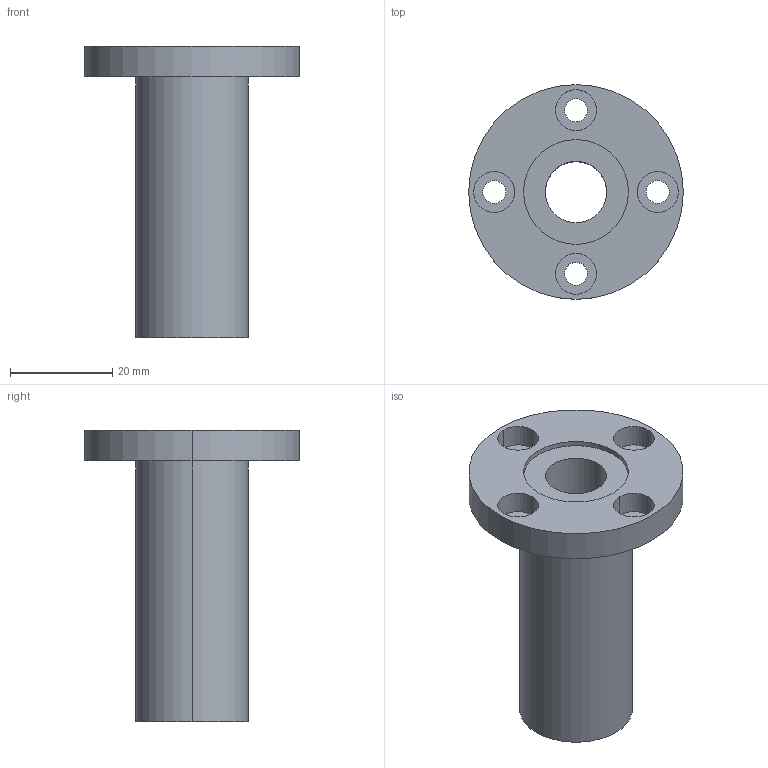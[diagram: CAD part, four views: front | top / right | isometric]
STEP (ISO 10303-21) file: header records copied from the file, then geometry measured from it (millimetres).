
FILE_DESCRIPTION((''),'2;1');
FILE_NAME('C:\Documents and Settings\ｿﾀﾀ蠑ｷ1\ｹﾙﾅﾁ ﾈｭｸ饅\ｺﾎﾇｰﾆﾄﾀﾏ\ﾁｦﾇｰ\LMEF__LUU\LMEF12LUU.stp','2005-06-15T10:53:10',('ｿﾀﾀ蠑ｷ1'),(''),'Autodesk Inventor 9','Autodesk Inventor 9','');
FILE_SCHEMA(('AUTOMOTIVE_DESIGN { 1 0 10303 214 1 1 1 1 }'));
Length unit declared in the file: millimetre
Products named in the file (1): LMEF__(L)
Bounding box: 42 x 42 x 57 mm (x, y, z)
Volume: 19832.6 mm3; surface area: 9469 mm2
Topology: 1 solids, 1 shells, 35 faces, 78 edges, 52 vertices
Faces by surface type: bspline 20, cylinder 10, plane 5
Entity records: 1255 total; most frequent: CARTESIAN_POINT 450, DIRECTION 162, ORIENTED_EDGE 156, EDGE_CURVE 78, AXIS2_PLACEMENT_3D 68, VERTEX_POINT 52, CIRCLE 52, EDGE_LOOP 52
